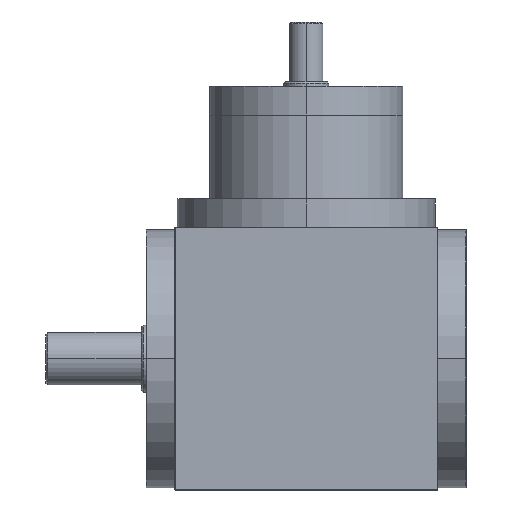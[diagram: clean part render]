
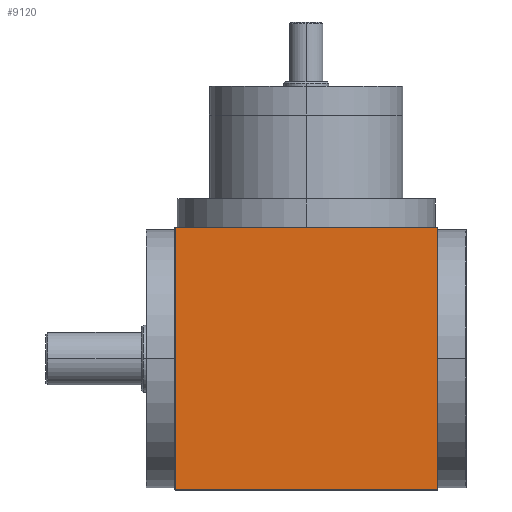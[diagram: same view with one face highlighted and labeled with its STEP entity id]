
A CAD part, front view. The second image highlights one B-rep face of the part: STEP entity #9120.
In plain terms, the highlighted planar face has unit normal (0, -1, 0).
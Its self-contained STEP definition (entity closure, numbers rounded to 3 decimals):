
#643 = DIRECTION ( 'NONE',  ( 0., 0., -1. ) ) ;
#799 = ORIENTED_EDGE ( 'NONE', *, *, #7681, .T. ) ;
#1027 = VERTEX_POINT ( 'NONE', #8826 ) ;
#1052 = LINE ( 'NONE', #4182, #10767 ) ;
#1262 = DIRECTION ( 'NONE',  ( -1., 0., 0. ) ) ;
#1616 = EDGE_CURVE ( 'NONE', #1027, #4347, #15337, .T. ) ;
#1730 = ORIENTED_EDGE ( 'NONE', *, *, #5280, .T. ) ;
#1936 = VECTOR ( 'NONE', #643, 1000. ) ;
#2002 = DIRECTION ( 'NONE',  ( 1., 0., 0. ) ) ;
#3102 = VERTEX_POINT ( 'NONE', #13300 ) ;
#4182 = CARTESIAN_POINT ( 'NONE',  ( -55., -55., 54.9 ) ) ;
#4347 = VERTEX_POINT ( 'NONE', #17625 ) ;
#5280 = EDGE_CURVE ( 'NONE', #4347, #3102, #6338, .T. ) ;
#6338 = LINE ( 'NONE', #8724, #12439 ) ;
#7124 = EDGE_CURVE ( 'NONE', #3102, #9618, #13764, .T. ) ;
#7681 = EDGE_CURVE ( 'NONE', #9618, #1027, #1052, .T. ) ;
#8234 = FACE_OUTER_BOUND ( 'NONE', #8854, .T. ) ;
#8724 = CARTESIAN_POINT ( 'NONE',  ( 55., -55., -54.9 ) ) ;
#8826 = CARTESIAN_POINT ( 'NONE',  ( -54.9, -55., 54.9 ) ) ;
#8854 = EDGE_LOOP ( 'NONE', ( #1730, #18606, #799, #17163 ) ) ;
#9120 = ADVANCED_FACE ( 'NONE', ( #8234 ), #11419, .F. ) ;
#9133 = AXIS2_PLACEMENT_3D ( 'NONE', #15840, #17337, #10101 ) ;
#9266 = CARTESIAN_POINT ( 'NONE',  ( -54.9, -55., 55. ) ) ;
#9618 = VERTEX_POINT ( 'NONE', #15100 ) ;
#10101 = DIRECTION ( 'NONE',  ( 0., 0., 1. ) ) ;
#10767 = VECTOR ( 'NONE', #1262, 1000. ) ;
#11419 = PLANE ( 'NONE',  #9133 ) ;
#12439 = VECTOR ( 'NONE', #2002, 1000. ) ;
#13300 = CARTESIAN_POINT ( 'NONE',  ( 54.9, -55., -54.9 ) ) ;
#13764 = LINE ( 'NONE', #17356, #15361 ) ;
#15100 = CARTESIAN_POINT ( 'NONE',  ( 54.9, -55., 54.9 ) ) ;
#15337 = LINE ( 'NONE', #9266, #1936 ) ;
#15361 = VECTOR ( 'NONE', #16113, 1000. ) ;
#15840 = CARTESIAN_POINT ( 'NONE',  ( 55., -55., 55. ) ) ;
#16113 = DIRECTION ( 'NONE',  ( 0., 0., 1. ) ) ;
#17163 = ORIENTED_EDGE ( 'NONE', *, *, #1616, .T. ) ;
#17337 = DIRECTION ( 'NONE',  ( 0., 1., 0. ) ) ;
#17356 = CARTESIAN_POINT ( 'NONE',  ( 54.9, -55., 55. ) ) ;
#17625 = CARTESIAN_POINT ( 'NONE',  ( -54.9, -55., -54.9 ) ) ;
#18606 = ORIENTED_EDGE ( 'NONE', *, *, #7124, .T. ) ;
